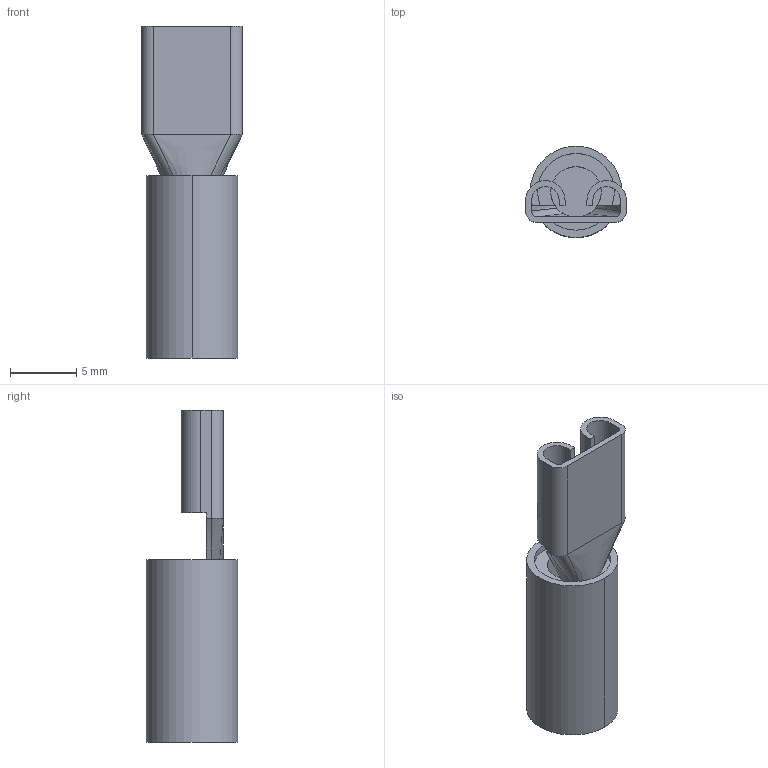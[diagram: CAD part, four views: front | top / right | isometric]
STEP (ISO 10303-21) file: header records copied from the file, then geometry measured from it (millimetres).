
FILE_DESCRIPTION((''),'2;1');
FILE_NAME('C-0160314-05-3','2007-09-03T',('workeradm'),('Tyco Electronics Corporation'),'PRO/ENGINEER BY PARAMETRIC TECHNOLOGY CORPORATION, 2005450','PRO/ENGINEER BY PARAMETRIC TECHNOLOGY CORPORATION, 2005450','');
FILE_SCHEMA(('CONFIG_CONTROL_DESIGN', 'GEOMETRIC_VALIDATION_PROPERTIES_MIM'));
Length unit declared in the file: millimetre
Products named in the file (1): C-0160314-05-3
Bounding box: 7.62 x 6.91 x 25.08 mm (x, y, z)
Volume: 488.9 mm3; surface area: 831 mm2
Topology: 1 solids, 1 shells, 48 faces, 122 edges, 79 vertices
Faces by surface type: plane 22, cylinder 16, bspline 10
Entity records: 1956 total; most frequent: CARTESIAN_POINT 678, ORIENTED_EDGE 244, DIRECTION 226, EDGE_CURVE 122, VERTEX_POINT 79, VECTOR 76, LINE 76, AXIS2_PLACEMENT_3D 75
